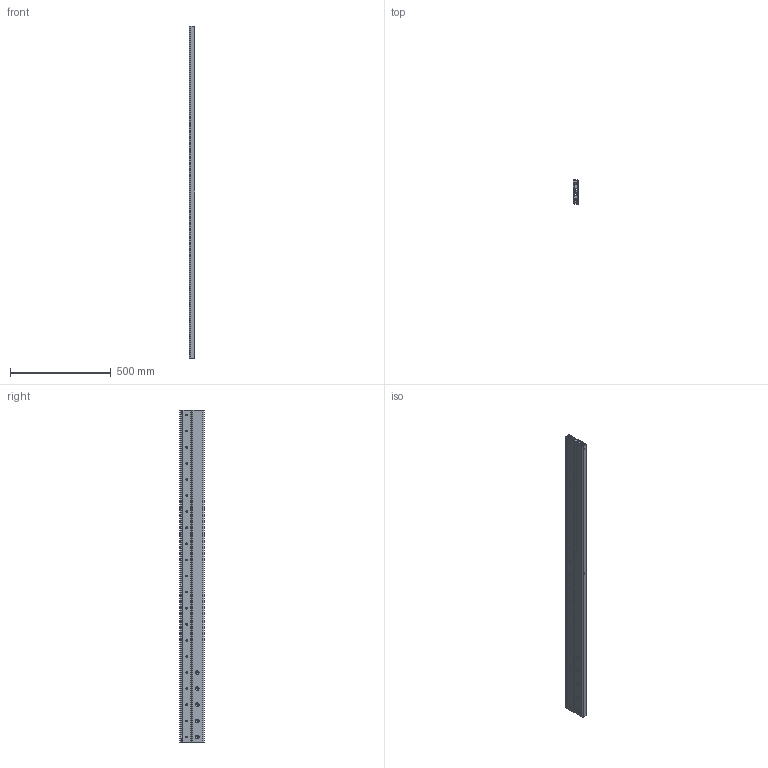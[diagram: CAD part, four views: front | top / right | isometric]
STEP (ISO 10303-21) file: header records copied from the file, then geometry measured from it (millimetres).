
FILE_DESCRIPTION(('STEP AP214'),'1');
FILE_NAME('rail_dss43-1650_00.stp','2017-04-17T04:00:39',('TraceParts'),('TraceParts S.A.'),'Spatial InterOp 3D',' ',' ');
FILE_SCHEMA(('automotive_design'));
Length unit declared in the file: millimetre
Products named in the file (3): rail_dss43-1650_00_1; rail_dss43-1650_00_2; rail_dss43-1650_00_3
Bounding box: 28 x 120 x 1650 mm (x, y, z)
Volume: 2936210.9 mm3; surface area: 1178169 mm2
Topology: 3 solids, 3 shells, 378 faces, 1002 edges, 640 vertices
Faces by surface type: cylinder 156, plane 138, cone 84
Entity records: 12019 total; most frequent: DIRECTION 2176, CARTESIAN_POINT 2023, ORIENTED_EDGE 2004, EDGE_CURVE 1002, AXIS2_PLACEMENT_3D 793, VERTEX_POINT 640, LINE 590, VECTOR 590
